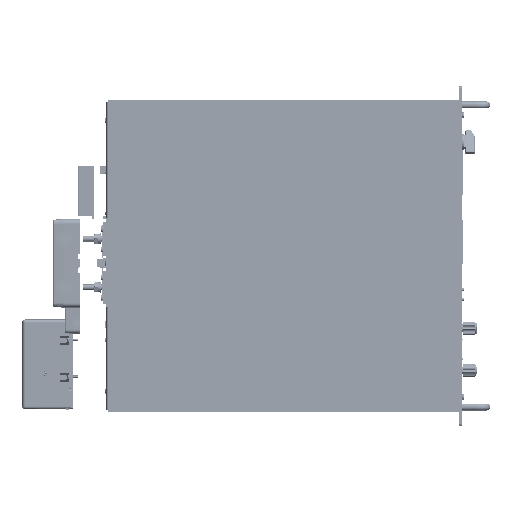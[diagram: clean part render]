
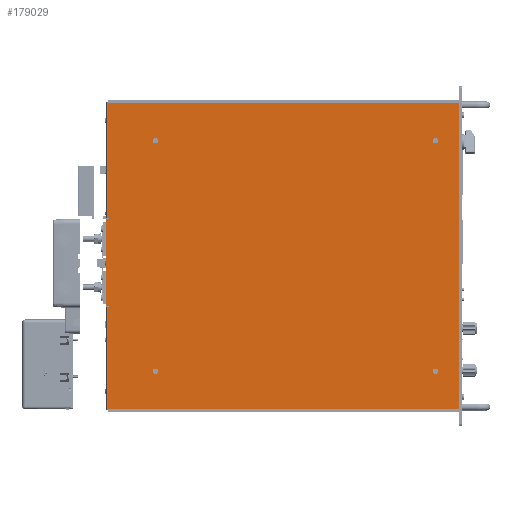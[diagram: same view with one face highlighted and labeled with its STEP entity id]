
A CAD part, front view. The second image highlights one B-rep face of the part: STEP entity #179029.
In plain terms, the highlighted planar face has unit normal (0, -1, 0).
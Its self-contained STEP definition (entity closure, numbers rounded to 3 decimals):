
#7056=FACE_BOUND('',#29635,.T.);
#7057=FACE_BOUND('',#29636,.T.);
#7058=FACE_BOUND('',#29637,.T.);
#7059=FACE_BOUND('',#29638,.T.);
#10702=PLANE('',#187945);
#19519=FACE_OUTER_BOUND('',#29634,.T.);
#29634=EDGE_LOOP('',(#135838,#135839,#135840,#135841,#135842,#135843,#135844,
#135845,#135846,#135847,#135848,#135849));
#29635=EDGE_LOOP('',(#135850));
#29636=EDGE_LOOP('',(#135851));
#29637=EDGE_LOOP('',(#135852));
#29638=EDGE_LOOP('',(#135853));
#43931=LINE('',#279643,#59826);
#43947=LINE('',#279691,#59842);
#43974=LINE('',#279760,#59869);
#43977=LINE('',#279766,#59872);
#43978=LINE('',#279768,#59873);
#43979=LINE('',#279769,#59874);
#43980=LINE('',#279771,#59875);
#43981=LINE('',#279773,#59876);
#43982=LINE('',#279775,#59877);
#43983=LINE('',#279777,#59878);
#43984=LINE('',#279779,#59879);
#43985=LINE('',#279780,#59880);
#59826=VECTOR('',#211879,10.);
#59842=VECTOR('',#211913,10.);
#59869=VECTOR('',#211960,10.);
#59872=VECTOR('',#211965,10.);
#59873=VECTOR('',#211966,10.);
#59874=VECTOR('',#211967,10.);
#59875=VECTOR('',#211968,10.);
#59876=VECTOR('',#211969,10.);
#59877=VECTOR('',#211970,10.);
#59878=VECTOR('',#211971,10.);
#59879=VECTOR('',#211972,10.);
#59880=VECTOR('',#211973,10.);
#68299=CIRCLE('',#187946,3.85);
#68300=CIRCLE('',#187947,3.85);
#68301=CIRCLE('',#187948,3.85);
#68302=CIRCLE('',#187949,3.85);
#79511=VERTEX_POINT('',#279602);
#79516=VERTEX_POINT('',#279613);
#79527=VERTEX_POINT('',#279642);
#79540=VERTEX_POINT('',#279690);
#79562=VERTEX_POINT('',#279759);
#79564=VERTEX_POINT('',#279765);
#79565=VERTEX_POINT('',#279767);
#79566=VERTEX_POINT('',#279770);
#79567=VERTEX_POINT('',#279772);
#79568=VERTEX_POINT('',#279774);
#79569=VERTEX_POINT('',#279776);
#79570=VERTEX_POINT('',#279778);
#79571=VERTEX_POINT('',#279781);
#79572=VERTEX_POINT('',#279783);
#79573=VERTEX_POINT('',#279785);
#79574=VERTEX_POINT('',#279787);
#99668=EDGE_CURVE('',#79527,#79511,#43931,.T.);
#99687=EDGE_CURVE('',#79540,#79516,#43947,.T.);
#99717=EDGE_CURVE('',#79562,#79540,#43974,.T.);
#99720=EDGE_CURVE('',#79516,#79564,#43977,.T.);
#99721=EDGE_CURVE('',#79564,#79565,#43978,.T.);
#99722=EDGE_CURVE('',#79565,#79527,#43979,.T.);
#99723=EDGE_CURVE('',#79511,#79566,#43980,.T.);
#99724=EDGE_CURVE('',#79566,#79567,#43981,.T.);
#99725=EDGE_CURVE('',#79567,#79568,#43982,.T.);
#99726=EDGE_CURVE('',#79568,#79569,#43983,.T.);
#99727=EDGE_CURVE('',#79569,#79570,#43984,.T.);
#99728=EDGE_CURVE('',#79570,#79562,#43985,.T.);
#99729=EDGE_CURVE('',#79571,#79571,#68299,.T.);
#99730=EDGE_CURVE('',#79572,#79572,#68300,.T.);
#99731=EDGE_CURVE('',#79573,#79573,#68301,.T.);
#99732=EDGE_CURVE('',#79574,#79574,#68302,.T.);
#135838=ORIENTED_EDGE('',*,*,#99687,.T.);
#135839=ORIENTED_EDGE('',*,*,#99720,.T.);
#135840=ORIENTED_EDGE('',*,*,#99721,.T.);
#135841=ORIENTED_EDGE('',*,*,#99722,.T.);
#135842=ORIENTED_EDGE('',*,*,#99668,.T.);
#135843=ORIENTED_EDGE('',*,*,#99723,.T.);
#135844=ORIENTED_EDGE('',*,*,#99724,.T.);
#135845=ORIENTED_EDGE('',*,*,#99725,.T.);
#135846=ORIENTED_EDGE('',*,*,#99726,.T.);
#135847=ORIENTED_EDGE('',*,*,#99727,.T.);
#135848=ORIENTED_EDGE('',*,*,#99728,.T.);
#135849=ORIENTED_EDGE('',*,*,#99717,.T.);
#135850=ORIENTED_EDGE('',*,*,#99729,.T.);
#135851=ORIENTED_EDGE('',*,*,#99730,.T.);
#135852=ORIENTED_EDGE('',*,*,#99731,.T.);
#135853=ORIENTED_EDGE('',*,*,#99732,.T.);
#179029=ADVANCED_FACE('',(#19519,#7056,#7057,#7058,#7059),#10702,.F.);
#187945=AXIS2_PLACEMENT_3D('',#279764,#211963,#211964);
#187946=AXIS2_PLACEMENT_3D('',#279782,#211974,#211975);
#187947=AXIS2_PLACEMENT_3D('',#279784,#211976,#211977);
#187948=AXIS2_PLACEMENT_3D('',#279786,#211978,#211979);
#187949=AXIS2_PLACEMENT_3D('',#279788,#211980,#211981);
#211879=DIRECTION('',(0.,0.,-1.));
#211913=DIRECTION('',(0.,0.,-1.));
#211960=DIRECTION('',(-1.,0.,0.));
#211963=DIRECTION('center_axis',(0.,1.,0.));
#211964=DIRECTION('ref_axis',(0.,0.,
-1.));
#211965=DIRECTION('',(1.,0.,0.));
#211966=DIRECTION('',(0.,0.,1.));
#211967=DIRECTION('',(-1.,0.,0.));
#211968=DIRECTION('',(1.,0.,0.));
#211969=DIRECTION('',(0.,0.,-1.));
#211970=DIRECTION('',(-1.,0.,0.));
#211971=DIRECTION('',(0.,0.,-1.));
#211972=DIRECTION('',(1.,0.,0.));
#211973=DIRECTION('',(0.,0.,-1.));
#211974=DIRECTION('center_axis',(0.,1.,0.));
#211975=DIRECTION('ref_axis',(0.,0.,
1.));
#211976=DIRECTION('center_axis',(0.,1.,0.));
#211977=DIRECTION('ref_axis',(0.,0.,
1.));
#211978=DIRECTION('center_axis',(0.,1.,0.));
#211979=DIRECTION('ref_axis',(0.,0.,
1.));
#211980=DIRECTION('center_axis',(0.,1.,0.));
#211981=DIRECTION('ref_axis',(0.,0.,
1.));
#279602=CARTESIAN_POINT('',(-503.,2.,54.3));
#279613=CARTESIAN_POINT('',(-503.,2.,-219.));
#279642=CARTESIAN_POINT('',(-503.,2.,219.));
#279643=CARTESIAN_POINT('',(-503.,2.,109.5));
#279690=CARTESIAN_POINT('',(-503.,2.,-73.));
#279691=CARTESIAN_POINT('',(-503.,2.,-36.5));
#279759=CARTESIAN_POINT('',(-502.5,2.,-73.));
#279760=CARTESIAN_POINT('',(-378.375,2.,-73.));
#279764=CARTESIAN_POINT('Origin',(-254.25,2.,0.));
#279765=CARTESIAN_POINT('',(-2.5,2.,-219.));
#279766=CARTESIAN_POINT('',(-506.,2.,-219.));
#279767=CARTESIAN_POINT('',(-2.5,2.,219.));
#279768=CARTESIAN_POINT('',(-2.5,2.,-219.));
#279769=CARTESIAN_POINT('',(-2.5,2.,219.));
#279770=CARTESIAN_POINT('',(-502.5,2.,54.3));
#279771=CARTESIAN_POINT('',(-380.125,2.,54.3));
#279772=CARTESIAN_POINT('',(-502.5,2.,52.));
#279773=CARTESIAN_POINT('',(-502.5,2.,27.15));
#279774=CARTESIAN_POINT('',(-506.,2.,52.));
#279775=CARTESIAN_POINT('',(-378.375,2.,52.));
#279776=CARTESIAN_POINT('',(-506.,2.,-70.7));
#279777=CARTESIAN_POINT('',(-506.,2.,219.));
#279778=CARTESIAN_POINT('',(-502.5,2.,-70.7));
#279779=CARTESIAN_POINT('',(-380.125,2.,-70.7));
#279780=CARTESIAN_POINT('',(-502.5,2.,-35.35));
#279781=CARTESIAN_POINT('',(-436.,2.,160.15));
#279782=CARTESIAN_POINT('Origin',(-436.,2.,164.));
#279783=CARTESIAN_POINT('',(-436.,2.,-167.85));
#279784=CARTESIAN_POINT('Origin',(-436.,2.,-164.));
#279785=CARTESIAN_POINT('',(-37.5,2.,-167.85));
#279786=CARTESIAN_POINT('Origin',(-37.5,2.,-164.));
#279787=CARTESIAN_POINT('',(-37.5,2.,160.15));
#279788=CARTESIAN_POINT('Origin',(-37.5,2.,164.));
